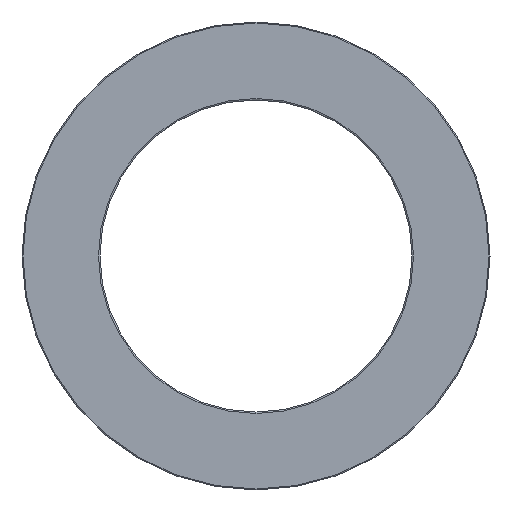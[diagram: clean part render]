
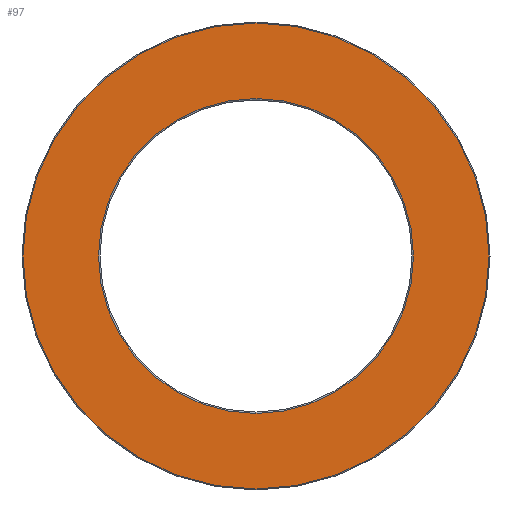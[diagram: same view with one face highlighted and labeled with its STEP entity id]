
A CAD part, left-side view. The second image highlights one B-rep face of the part: STEP entity #97.
In plain terms, the highlighted planar face has unit normal (-1, 0, 0).
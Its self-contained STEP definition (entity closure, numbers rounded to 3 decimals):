
#97=ADVANCED_FACE('',(#166,#167),#168,.F.);
#166=FACE_BOUND('',#238,.T.);
#167=FACE_OUTER_BOUND('',#239,.T.);
#168=PLANE('',#240);
#238=EDGE_LOOP('',(#354));
#239=EDGE_LOOP('',(#355));
#240=AXIS2_PLACEMENT_3D('',#356,#357,#358);
#354=ORIENTED_EDGE('',*,*,#386,.F.);
#355=ORIENTED_EDGE('',*,*,#387,.T.);
#356=CARTESIAN_POINT('',(0.0,89.619,0.0));
#357=DIRECTION('',(1.0,0.0,0.0));
#358=DIRECTION('',(0.0,0.0,-1.0));
#386=EDGE_CURVE('',#432,#432,#433,.T.);
#387=EDGE_CURVE('',#434,#434,#435,.T.);
#432=VERTEX_POINT('',#480);
#433=CIRCLE('',#481,60.558);
#434=VERTEX_POINT('',#482);
#435=CIRCLE('',#483,89.619);
#480=CARTESIAN_POINT('',(0.0,0.0,60.558));
#481=AXIS2_PLACEMENT_3D('',#550,#551,#552);
#482=CARTESIAN_POINT('',(0.0,0.0,89.619));
#483=AXIS2_PLACEMENT_3D('',#553,#554,#555);
#550=CARTESIAN_POINT('',(0.0,0.0,0.0));
#551=DIRECTION('',(-1.0,0.0,0.0));
#552=DIRECTION('',(0.0,0.0,1.0));
#553=CARTESIAN_POINT('',(0.0,0.0,0.0));
#554=DIRECTION('',(-1.0,0.0,0.0));
#555=DIRECTION('',(0.0,0.0,1.0));
